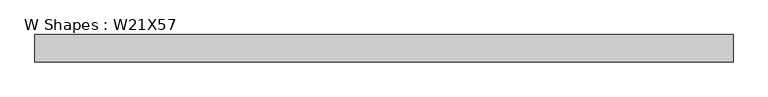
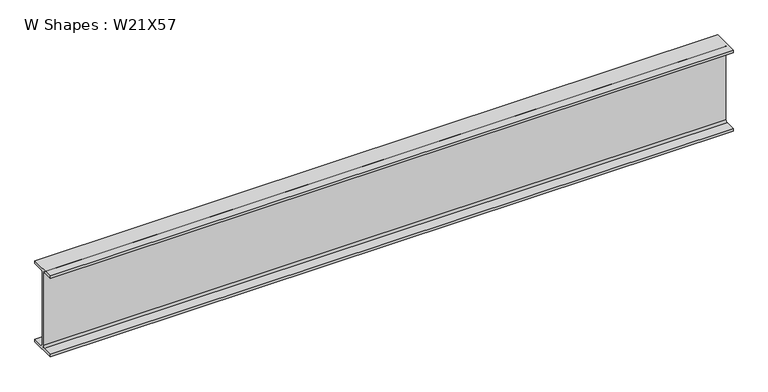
"""IFC4 building model written with IfcOpenShell, lengths in millimetres: beam geometry, W Shapes : W21X57."""

import ifcopenshell
import ifcopenshell.guid

model = None  # the IFC model being written
_history = None  # IfcOwnerHistory: only IFC2X3 demands one
_inside = {}  # id of a spatial element -> (the spatial element, [elements in it])
_under = {}  # id of a project, library or spatial element -> (it, [spatial elements below it])
_declared = {}  # id of a project -> (the project, [libraries it declares])
_typed = {}  # id of a type object -> (the type object, [elements of that type])
_made_of = {}  # id of a material, layer set ... -> (it, [elements and type objects made of it])


def new_model(schema):
    """Start an empty IFC model of exactly this schema.

    Asked for "IFC4X3", IfcOpenShell would pick the latest addendum, in which some entities
    have other attributes; the version numbers below select the first issue.
    IFC2X3 requires an IfcOwnerHistory on every rooted entity: one is made here for all.
    """
    global model, _history
    if schema == "IFC4X3":
        model = ifcopenshell.file(schema_version=(4, 3, 0, 0))
    else:
        model = ifcopenshell.file(schema=schema)
    _inside.clear()
    _under.clear()
    _declared.clear()
    _typed.clear()
    _made_of.clear()
    _history = None
    if model.schema == "IFC2X3":
        org = make("IfcOrganization", Name="unknown")
        user = make(
            "IfcPersonAndOrganization",
            ThePerson=make("IfcPerson", FamilyName="unknown"),
            TheOrganization=org,
        )
        app = make(
            "IfcApplication",
            ApplicationDeveloper=org,
            Version="unknown",
            ApplicationFullName="unknown",
            ApplicationIdentifier="unknown",
        )
        _history = make(
            "IfcOwnerHistory",
            OwningUser=user,
            OwningApplication=app,
            ChangeAction="ADDED",
            CreationDate=0,
        )
    return model


def make(cls, **values):
    """One entity of the class cls with the attributes given. An attribute that is None is left unset."""
    return model.create_entity(
        cls, **{name: value for name, value in values.items() if value is not None}
    )


def rooted(cls, **values):
    """An entity with a GlobalId (a new one), such as an element, a storey or a relation."""
    return make(cls, GlobalId=ifcopenshell.guid.new(), OwnerHistory=_history, **values)


def si_unit(unit_type, name, prefix=None):
    """IfcSIUnit, for example si_unit("LENGTHUNIT", "METRE", prefix="MILLI")."""
    return make("IfcSIUnit", UnitType=unit_type, Prefix=prefix, Name=name)


def assignment(units):
    """IfcUnitAssignment: the units of a project."""
    return None if units is None else make("IfcUnitAssignment", Units=units)


def point(xyz):
    """IfcCartesianPoint."""
    return None if xyz is None else make("IfcCartesianPoint", Coordinates=xyz)


def direction(xyz):
    """IfcDirection."""
    return None if xyz is None else make("IfcDirection", DirectionRatios=xyz)


def frame(location, z_axis=None, x_axis=None):
    """IfcAxis2Placement3D, a coordinate frame: its origin and axes. An axis left out is left unset."""
    return make(
        "IfcAxis2Placement3D",
        Location=point(location),
        Axis=direction(z_axis),
        RefDirection=direction(x_axis),
    )


def frame_2d(location, x_axis=None):
    """IfcAxis2Placement2D, a coordinate frame in the plane: its origin and x axis."""
    return make(
        "IfcAxis2Placement2D", Location=point(location), RefDirection=direction(x_axis)
    )


def origin():
    """The frame at (0, 0, 0) with its axes left unset."""
    return frame((0.0, 0.0, 0.0))


def place(relative_to, where):
    """IfcLocalPlacement: puts the frame where relative to a parent placement (None: the world)."""
    return make(
        "IfcLocalPlacement", PlacementRelTo=relative_to, RelativePlacement=where
    )


def context(
    kind, dimensions, precision=None, world=None, true_north=None, identifier=None
):
    """IfcGeometricRepresentationContext, for example the 3D "Model" context."""
    return make(
        "IfcGeometricRepresentationContext",
        ContextIdentifier=identifier,
        ContextType=kind,
        CoordinateSpaceDimension=dimensions,
        Precision=precision,
        WorldCoordinateSystem=world,
        TrueNorth=true_north,
    )


def project(units=None, contexts=None):
    """IfcProject with its units and contexts."""
    return rooted(
        "IfcProject",
        Name="project",
        RepresentationContexts=contexts,
        UnitsInContext=assignment(units),
    )


def spatial(cls, under=None, at=None, **own):
    """A site, building, storey or space (cls), placed at a placement, below another one or the project."""
    s = rooted(cls, ObjectPlacement=at, **own)
    if under is not None:
        _under.setdefault(under.id(), (under, []))[1].append(s)
    return s


def polyline(points):
    """IfcPolyline through the points."""
    return make("IfcPolyline", Points=[point(p) for p in points])


def circle_curve(where, radius):
    """IfcCircle in the frame where."""
    return make("IfcCircle", Position=where, Radius=radius)


def trimmed(basis, trim1, trim2, sense, master):
    """IfcTrimmedCurve: the piece of a basis curve between two trims."""
    return make(
        "IfcTrimmedCurve",
        BasisCurve=basis,
        Trim1=trim1,
        Trim2=trim2,
        SenseAgreement=sense,
        MasterRepresentation=master,
    )


def segment(curve, same_sense, transition):
    """IfcCompositeCurveSegment."""
    return make(
        "IfcCompositeCurveSegment",
        Transition=transition,
        SameSense=same_sense,
        ParentCurve=curve,
    )


def composite_curve(segments, self_intersect=None):
    """IfcCompositeCurve: segments joined end to end."""
    return make("IfcCompositeCurve", Segments=segments, SelfIntersect=self_intersect)


def outline(outer, holes=None, kind="AREA"):
    """IfcArbitraryClosedProfileDef: a profile drawn as a closed curve; with holes, ...WithVoids."""
    if holes is None:
        return make("IfcArbitraryClosedProfileDef", ProfileType=kind, OuterCurve=outer)
    return make(
        "IfcArbitraryProfileDefWithVoids",
        ProfileType=kind,
        OuterCurve=outer,
        InnerCurves=holes,
    )


def extrude(swept, where, along, depth):
    """IfcExtrudedAreaSolid: the profile swept, set in the frame where, extruded along a direction by depth."""
    return make(
        "IfcExtrudedAreaSolid",
        SweptArea=swept,
        Position=where,
        ExtrudedDirection=direction(along),
        Depth=depth,
    )


def shape(context_of_items, identifier, shape_type, items):
    """IfcShapeRepresentation: the items that make up one representation, for example the "Body"."""
    return make(
        "IfcShapeRepresentation",
        ContextOfItems=context_of_items,
        RepresentationIdentifier=identifier,
        RepresentationType=shape_type,
        Items=items,
    )


def source(mapping_origin, context_of_items, identifier, shape_type, items):
    """IfcRepresentationMap: a shape defined once, which mapped items show again and again."""
    return make(
        "IfcRepresentationMap",
        MappingOrigin=mapping_origin,
        MappedRepresentation=shape(context_of_items, identifier, shape_type, items),
    )


def transform(
    local_origin,
    x_axis=None,
    y_axis=None,
    z_axis=None,
    scale=None,
    scale2=None,
    scale3=None,
    uniform=True,
):
    """IfcCartesianTransformationOperator3D, or its non-uniform kind. x_axis, y_axis, z_axis: its Axis1, 2, 3."""
    if uniform:
        return make(
            "IfcCartesianTransformationOperator3D",
            Axis1=direction(x_axis),
            Axis2=direction(y_axis),
            LocalOrigin=point(local_origin),
            Scale=scale,
            Axis3=direction(z_axis),
        )
    return make(
        "IfcCartesianTransformationOperator3DnonUniform",
        Axis1=direction(x_axis),
        Axis2=direction(y_axis),
        LocalOrigin=point(local_origin),
        Scale=scale,
        Axis3=direction(z_axis),
        Scale2=scale2,
        Scale3=scale3,
    )


def mapped(mapping_source, mapping_target):
    """IfcMappedItem: shows the shape of a source again, moved by a transform."""
    return make(
        "IfcMappedItem", MappingSource=mapping_source, MappingTarget=mapping_target
    )


def made_of(thing, what):
    """Note that an element or type object is made of a material, layer set ...; save() writes the relation."""
    if what is not None:
        _made_of.setdefault(what.id(), (what, []))[1].append(thing)
    return thing


def element(
    cls,
    number,
    at=None,
    inside=None,
    cuts=None,
    type_object=None,
    material=None,
    context=None,
    identifier="Body",
    shape_type=None,
    held_by="IfcProductDefinitionShape",
    body=None,
    shapes=None,
    **own,
):
    """One element of the class cls, such as IfcWall. Its Tag is "e" and its number.

    at: its placement. inside: the storey or other place that contains it. cuts: it is an
    opening in that element (IfcRelVoidsElement). A single representation is given by context,
    identifier, shape_type and body (its items); several are given by shapes. held_by: the class
    of the entity that holds the representations. save() writes the other relations.
    """
    e = rooted(cls, Tag="e%d" % number, ObjectPlacement=at, **own)
    if body is not None:
        shapes = [shape(context, identifier, shape_type, body)]
    if shapes is not None:
        e.Representation = make(held_by, Representations=shapes)
    if inside is not None:
        _inside.setdefault(inside.id(), (inside, []))[1].append(e)
    if cuts is not None:
        rooted(
            "IfcRelVoidsElement", RelatingBuildingElement=cuts, RelatedOpeningElement=e
        )
    if type_object is not None:
        _typed.setdefault(type_object.id(), (type_object, []))[1].append(e)
    return made_of(e, material)


def aggregate(whole, parts):
    """IfcRelAggregates: a whole, such as a stair, and the parts it consists of."""
    return rooted("IfcRelAggregates", RelatingObject=whole, RelatedObjects=parts)


def save(model, path):
    """Write the relations noted so far, then the file.

    IfcRelAggregates (storeys below a building ...), IfcRelContainedInSpatialStructure (elements
    in a storey), IfcRelDefinesByType, IfcRelAssociatesMaterial and IfcRelDeclares: one each for
    every whole, place, type object, material and project.
    """
    for whole, parts in _under.values():
        aggregate(whole, parts)
    for where, things in _inside.values():
        rooted(
            "IfcRelContainedInSpatialStructure",
            RelatedElements=things,
            RelatingStructure=where,
        )
    for kind, things in _typed.values():
        rooted("IfcRelDefinesByType", RelatedObjects=things, RelatingType=kind)
    for what, things in _made_of.values():
        rooted("IfcRelAssociatesMaterial", RelatedObjects=things, RelatingMaterial=what)
    for by, libraries in _declared.values():
        rooted("IfcRelDeclares", RelatingContext=by, RelatedDefinitions=libraries)
    model.write(path)


def w_shapes_w21x57_1251f8e0(model_context):
    return source(origin(), model_context, "Body", "SweptSolid", [
        extrude(outline(composite_curve([segment(polyline([(83.312, -251.46), (83.312, -267.97), (-83.312, -267.97), (-83.312, -251.46), (-17.907, -251.46)]), True, "CONTINUOUS"), segment(trimmed(circle_curve(frame_2d((-17.907, -238.76)), 12.7), [point((-17.907, -251.46))], [point((-5.207, -238.76))], True, "CARTESIAN"), True, "CONTINUOUS"), segment(polyline([(-5.207, -238.76), (-5.207, 238.76)]), True, "CONTINUOUS"), segment(trimmed(circle_curve(frame_2d((-17.907, 238.76)), 12.7), [point((-5.207, 238.76))], [point((-17.907, 251.46))], True, "CARTESIAN"), True, "CONTINUOUS"), segment(polyline([(-17.907, 251.46), (-83.312, 251.46), (-83.312, 267.97), (83.312, 267.97), (83.312, 251.46), (17.907, 251.46)]), True, "CONTINUOUS"), segment(trimmed(circle_curve(frame_2d((17.907, 238.76)), 12.7), [point((17.907, 251.46))], [point((5.207, 238.76))], True, "CARTESIAN"), True, "CONTINUOUS"), segment(polyline([(5.207, 238.76), (5.207, -238.76)]), True, "CONTINUOUS"), segment(trimmed(circle_curve(frame_2d((17.907, -238.76)), 12.7), [point((5.207, -238.76))], [point((17.907, -251.46))], True, "CARTESIAN"), True, "CONTINUOUS"), segment(polyline([(17.907, -251.46), (83.312, -251.46)]), True, "CONTINUOUS")], self_intersect=False)), frame((-2171.799694, 0.0, 0.0), z_axis=(1.0, 0.0, 0.0), x_axis=(0.0, 1.0, 0.0)), (0.0, 0.0, 1.0), 4268.7533294),
    ])


if __name__ == "__main__":
    model = new_model("IFC4")
    model_context = context("Model", 3, world=origin())
    ifc_project = project(units=[si_unit("LENGTHUNIT", "METRE", prefix="MILLI")], contexts=[model_context])
    site = spatial("IfcSite", under=ifc_project)
    building = spatial("IfcBuilding", under=site)
    placement = place(None, origin())
    w_shapes_w21x57_shape = w_shapes_w21x57_1251f8e0(model_context)
    element("IfcBeam", 1, ObjectType="W Shapes : W21X57", at=placement, inside=building, context=model_context, shape_type="MappedRepresentation", body=[
        mapped(w_shapes_w21x57_shape, transform((0.0, 0.0, 0.0), x_axis=(1.0, 0.0, 0.0), y_axis=(0.0, 1.0, 0.0), z_axis=(0.0, 0.0, 1.0))),
    ])
    save(model, "model.ifc")
